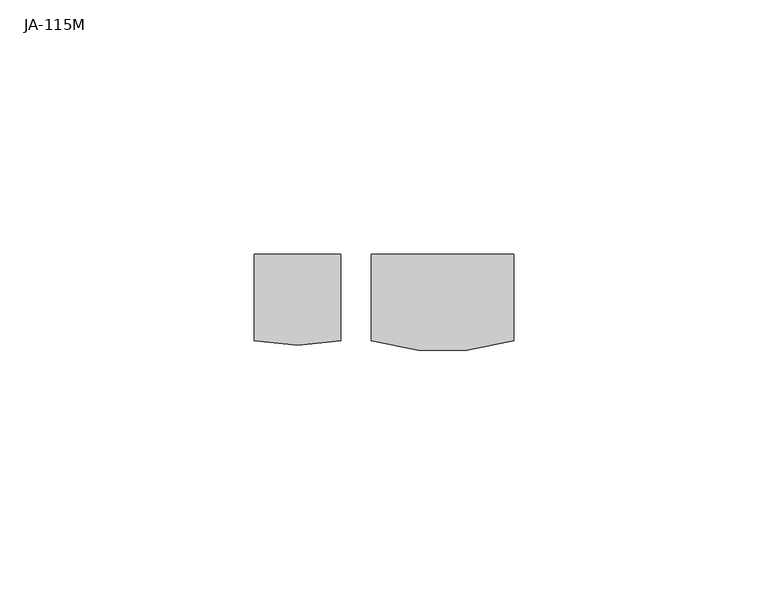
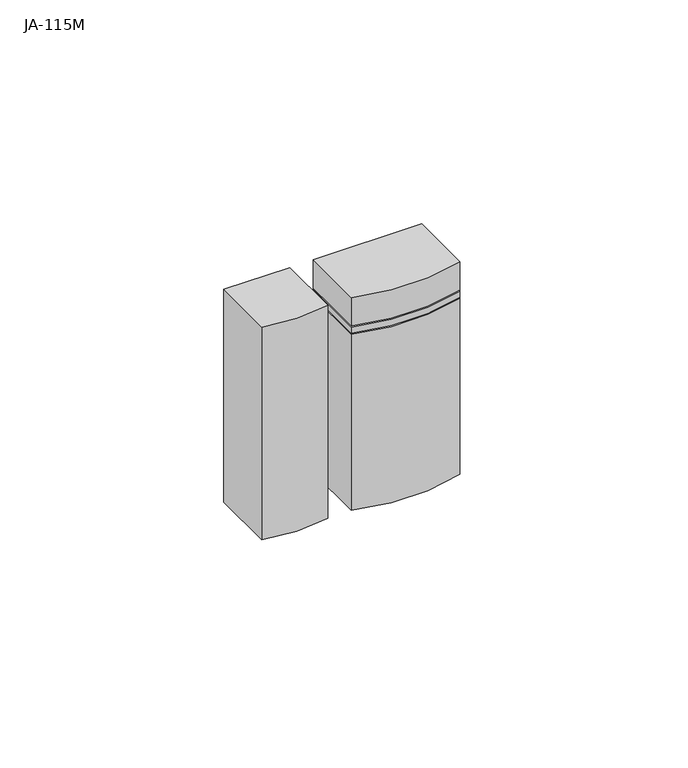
"""IFC4 building model written with IfcOpenShell, lengths in millimetres: proxy geometry, MG detektory.CC : JA-115M."""

from ifc_helpers import new_model, si_unit, point, frame, frame_2d, origin, place, context, project, spatial, polyline, circle_curve, trimmed, segment, composite_curve, outline, extrude, source, transform, mapped, element, save


def ja_115m_564cd410(model_context):
    return source(origin(), model_context, "Body", "SweptSolid", [
        extrude(outline(composite_curve([segment(polyline([(14.0, 0.0), (14.0, -17.0)]), True, "CONTINUOUS"), segment(trimmed(circle_curve(frame_2d((0.0, 28.4356298)), 47.5436268), [point((14.0, -17.0))], [point((-14.0, -17.0))], False, "CARTESIAN"), True, "CONTINUOUS"), segment(polyline([(-14.0, -17.0), (-14.0, 0.0), (14.0, 0.0)]), True, "CONTINUOUS")], self_intersect=False)), frame((0.0, 0.0, -29.0), z_axis=(0.0, 0.0, 1.0), x_axis=(1.0, 0.0, 0.0)), (0.0, 0.0, 1.0), 48.0),
        extrude(outline(composite_curve([segment(polyline([(-20.0, 0.0), (-20.0, -17.0)]), True, "CONTINUOUS"), segment(trimmed(circle_curve(frame_2d((-28.5, 23.1423284)), 41.0323839), [point((-20.0, -17.0))], [point((-37.0, -17.0))], False, "CARTESIAN"), True, "CONTINUOUS"), segment(polyline([(-37.0, -17.0), (-37.0, 0.0), (-20.0, 0.0)]), True, "CONTINUOUS")], self_intersect=False)), frame((0.0, 0.0, -29.0), z_axis=(0.0, 0.0, 1.0), x_axis=(1.0, 0.0, 0.0)), (0.0, 0.0, 1.0), 58.0),
        extrude(outline(composite_curve([segment(polyline([(14.0, 0.0), (14.0, -17.0)]), True, "CONTINUOUS"), segment(trimmed(circle_curve(frame_2d((0.0, 28.4356298)), 47.5436268), [point((14.0, -17.0))], [point((-14.0, -17.0))], False, "CARTESIAN"), True, "CONTINUOUS"), segment(polyline([(-14.0, -17.0), (-14.0, 0.0), (14.0, 0.0)]), True, "CONTINUOUS")], self_intersect=False)), frame((0.0, 0.0, 19.0), z_axis=(0.0, 0.0, 1.0), x_axis=(1.0, 0.0, 0.0)), (0.0, 0.0, 1.0), 2.0),
        extrude(outline(composite_curve([segment(polyline([(14.0, 0.0), (14.0, -17.0)]), True, "CONTINUOUS"), segment(trimmed(circle_curve(frame_2d((0.0, 28.4356298)), 47.5436268), [point((14.0, -17.0))], [point((-14.0, -17.0))], False, "CARTESIAN"), True, "CONTINUOUS"), segment(polyline([(-14.0, -17.0), (-14.0, 0.0), (14.0, 0.0)]), True, "CONTINUOUS")], self_intersect=False)), frame((0.0, 0.0, 21.0), z_axis=(0.0, 0.0, 1.0), x_axis=(1.0, 0.0, 0.0)), (0.0, 0.0, 1.0), 8.0),
    ])


if __name__ == "__main__":
    model = new_model("IFC4")
    model_context = context("Model", 3, world=origin())
    ifc_project = project(units=[si_unit("LENGTHUNIT", "METRE", prefix="MILLI")], contexts=[model_context])
    site = spatial("IfcSite", under=ifc_project)
    building = spatial("IfcBuilding", under=site)
    placement = place(None, origin())
    ja_115m_shape = ja_115m_564cd410(model_context)
    element("IfcBuildingElementProxy", 1, Name="MG detektory.CC : JA-115M", ObjectType="MG detektory.CC : JA-115M", at=placement, inside=building, context=model_context, shape_type="MappedRepresentation", body=[
        mapped(ja_115m_shape, transform((0.0, 0.0, 0.0), x_axis=(1.0, 0.0, 0.0), y_axis=(0.0, 1.0, 0.0), z_axis=(0.0, 0.0, 1.0))),
    ])
    save(model, "model.ifc")
